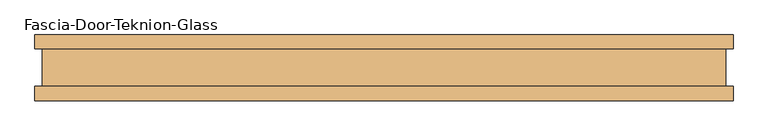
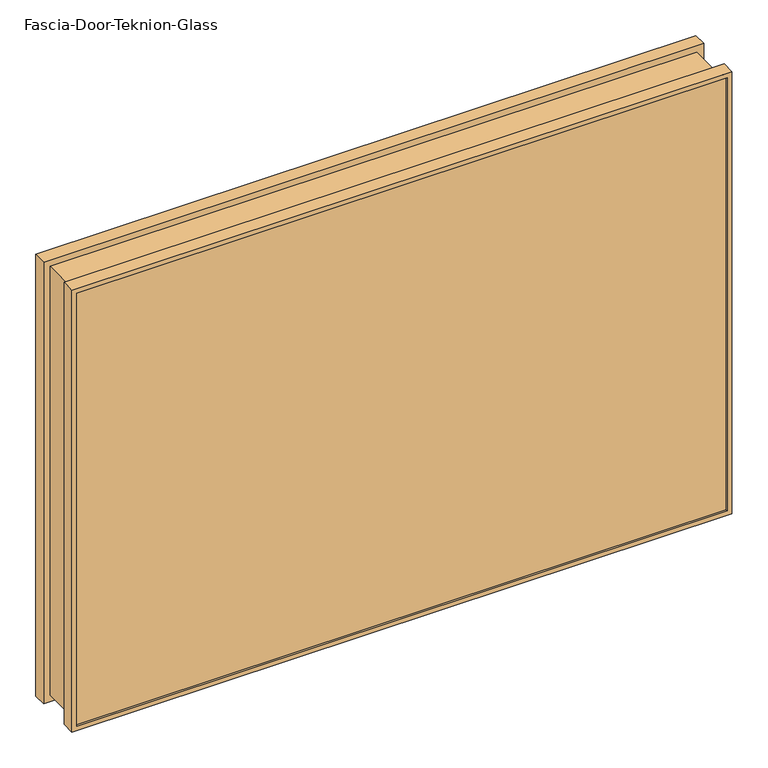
"""IFC4 building model written with IfcOpenShell, lengths in millimetres: door geometry, Fascia-Door-Teknion-Glass : FPGD."""

from ifc_helpers import new_model, si_unit, frame, origin, place, context, project, spatial, polyline, ellipse_curve, outline, extrude, source, transform, mapped, element, save
from ifc_brep_helpers import plane_surface, cylinder_surface, advanced_brep


def fascia_door_teknion_glass_046dfec6(model_context):
    return source(origin(), model_context, "Body", "SolidModel", [
        advanced_brep(
        [(530.2300781, -50.0558594, 753.745), (530.2300781, -50.0558594, 3.175), (530.2300781, -28.2698798, 3.175), (530.2300781, -28.2698798, 753.745), (522.7948703, -47.1322551, 746.3097922), (522.7948703, -47.1322551, 10.6102078), (522.7948703, -50.0558594, 10.6102078), (522.7948703, -50.0558594, 746.3097922), (528.0775518, -41.1791301, 751.5924737), (528.0775518, -41.1791301, 5.3275263), (528.0775518, -47.1322551, 5.3275263), (528.0775518, -47.1322551, 751.5924737), (522.2726626, 40.9277344, 745.7875845), (522.2726626, 40.9277344, 11.1324155), (522.2726626, -41.1791301, 11.1324155), (522.2726626, -41.1791301, 745.7875845), (528.0775518, 46.8808594, 751.5924737), (528.0775518, 46.8808594, 5.3275263), (528.0775518, 40.9277344, 5.3275263), (528.0775518, 40.9277344, 751.5924737), (522.7948703, 50.0558594, 746.3097922), (522.7948703, 50.0558594, 10.6102078), (522.7948703, 46.8808594, 10.6102078), (522.7948703, 46.8808594, 746.3097922), (530.2300781, 28.8801202, 753.745), (530.2300781, 28.8801202, 3.175), (530.2300781, 50.0558594, 3.175), (530.2300781, 50.0558594, 753.745), (519.3782367, -28.2698798, 742.8931586), (519.3782367, -28.2698798, 14.0268414), (519.3782367, 28.8801202, 14.0268414), (519.3782367, 28.8801202, 742.8931586), (-530.2300781, -50.0558594, 3.175), (-530.2300781, -28.2698798, 3.175), (-522.7948703, -47.1322551, 10.6102078), (-522.7948703, -50.0558594, 10.6102078), (-528.0775518, -41.1791301, 5.3275263), (-528.0775518, -47.1322551, 5.3275263), (-522.2726626, 40.9277344, 11.1324155), (-522.2726626, -41.1791301, 11.1324155), (-528.0775518, 46.8808594, 5.3275263), (-528.0775518, 40.9277344, 5.3275263), (-522.7948703, 50.0558594, 10.6102078), (-522.7948703, 46.8808594, 10.6102078), (-530.2300781, 28.8801202, 3.175), (-530.2300781, 50.0558594, 3.175), (-519.3782367, -28.2698798, 14.0268414), (-519.3782367, 28.8801202, 14.0268414), (-530.2300781, -50.0558594, 753.745), (-530.2300781, -28.2698798, 753.745), (-522.7948703, -47.1322551, 746.3097922), (-522.7948703, -50.0558594, 746.3097922), (-528.0775518, -41.1791301, 751.5924737), (-528.0775518, -47.1322551, 751.5924737), (-522.2726626, 40.9277344, 745.7875845), (-522.2726626, -41.1791301, 745.7875845), (-528.0775518, 46.8808594, 751.5924737), (-528.0775518, 40.9277344, 751.5924737), (-522.7948703, 50.0558594, 746.3097922), (-522.7948703, 46.8808594, 746.3097922), (-530.2300781, 28.8801202, 753.745), (-530.2300781, 50.0558594, 753.745), (-519.3782367, -28.2698798, 742.8931586), (-519.3782367, 28.8801202, 742.8931586)],
        [
            (0, 1),
            (1, 2),
            (2, 3),
            (3, 0),
            (4, 5),
            (5, 6),
            (6, 7),
            (7, 4),
            (8, 9),
            (9, 10),
            (10, 11),
            (11, 8),
            (12, 13),
            (13, 14, ellipse_curve(frame((561.6585049, -0.1256979, -28.2534268), z_axis=(0.7071067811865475, 0.0, 0.7071067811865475), x_axis=(-0.7071067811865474, 0.0, 0.7071067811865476)), 80.4565581, 56.8913778)),
            (14, 15),
            (15, 12, ellipse_curve(frame((561.6585049, -0.1256979, 785.1734268), z_axis=(0.7071067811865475, 0.0, -0.7071067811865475), x_axis=(0.7071067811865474, 0.0, 0.7071067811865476)), 80.4565581, 56.8913778)),
            (16, 17),
            (17, 18),
            (18, 19),
            (19, 16),
            (20, 21),
            (21, 22),
            (22, 23),
            (23, 20),
            (24, 25),
            (25, 26),
            (26, 27),
            (27, 24),
            (28, 29),
            (29, 30),
            (30, 31),
            (31, 28),
            (1, 32),
            (32, 33),
            (33, 2),
            (5, 34),
            (34, 35),
            (35, 6),
            (9, 36),
            (36, 37),
            (37, 10),
            (13, 38),
            (38, 39, ellipse_curve(frame((-561.6585049, -0.1256979, -28.2534268), z_axis=(0.7071067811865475, 0.0, -0.7071067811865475), x_axis=(0.7071067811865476, 0.0, 0.7071067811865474)), 80.4565581, 56.8913778)),
            (39, 14),
            (17, 40),
            (40, 41),
            (41, 18),
            (21, 42),
            (42, 43),
            (43, 22),
            (25, 44),
            (44, 45),
            (45, 26),
            (29, 46),
            (46, 47),
            (47, 30),
            (32, 48),
            (48, 49),
            (49, 33),
            (34, 50),
            (50, 51),
            (51, 35),
            (36, 52),
            (52, 53),
            (53, 37),
            (38, 54),
            (54, 55, ellipse_curve(frame((-561.6585049, -0.1256979, 785.1734268), z_axis=(-0.7071067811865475, 0.0, -0.7071067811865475), x_axis=(0.7071067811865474, 0.0, -0.7071067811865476)), 80.4565581, 56.8913778)),
            (55, 39),
            (40, 56),
            (56, 57),
            (57, 41),
            (42, 58),
            (58, 59),
            (59, 43),
            (44, 60),
            (60, 61),
            (61, 45),
            (46, 62),
            (62, 63),
            (63, 47),
            (48, 0),
            (3, 49),
            (51, 7),
            (50, 4),
            (53, 11),
            (52, 8),
            (55, 15),
            (54, 12),
            (57, 19),
            (56, 16),
            (59, 23),
            (58, 20),
            (61, 27),
            (60, 24),
            (63, 31),
            (62, 28),
        ],
        [
            plane_surface(frame((530.2300781, -28.2698798, 753.745), z_axis=(1.0, 0.0, 0.0), x_axis=(0.0, 0.0, -1.0))),
            plane_surface(frame((522.7948703, -50.0558594, 746.3097922), z_axis=(-1.0, 0.0, 0.0), x_axis=(0.0, 0.0, -1.0))),
            plane_surface(frame((528.0775518, -47.1322551, 751.5924737), z_axis=(-1.0, 0.0, 0.0), x_axis=(0.0, 0.0, -1.0))),
            cylinder_surface(frame((561.6585049, -0.1256979, 753.745), z_axis=(0.0, 0.0, 1.0), x_axis=(1.0, 0.0, 0.0)), 56.8913778),
            plane_surface(frame((528.0775518, 40.9277344, 751.5924737), z_axis=(-1.0, 0.0, 0.0), x_axis=(0.0, 0.0, -1.0))),
            plane_surface(frame((522.7948703, 46.8808594, 746.3097922), z_axis=(-1.0, 0.0, 0.0), x_axis=(0.0, 0.0, -1.0))),
            plane_surface(frame((530.2300781, 50.0558594, 753.745), z_axis=(1.0, 0.0, 0.0), x_axis=(0.0, 0.0, -1.0))),
            plane_surface(frame((519.3782367, 28.8801202, 742.8931586), z_axis=(1.0, 0.0, 0.0), x_axis=(0.0, 0.0, -1.0))),
            plane_surface(frame((530.2300781, -28.2698798, 3.175), z_axis=(0.0, 0.0, -1.0), x_axis=(-1.0, 0.0, 0.0))),
            plane_surface(frame((522.7948703, -50.0558594, 10.6102078), z_axis=(0.0, 0.0, 1.0), x_axis=(-1.0, 0.0, 0.0))),
            plane_surface(frame((528.0775518, -47.1322551, 5.3275263), z_axis=(0.0, 0.0, 1.0), x_axis=(-1.0, 0.0, 0.0))),
            cylinder_surface(frame((530.2300781, -0.1256979, -28.2534268), z_axis=(1.0, 0.0, 0.0), x_axis=(0.0, 0.0, -1.0)), 56.8913778),
            plane_surface(frame((528.0775518, 40.9277344, 5.3275263), z_axis=(0.0, 0.0, 1.0), x_axis=(-1.0, 0.0, 0.0))),
            plane_surface(frame((522.7948703, 46.8808594, 10.6102078), z_axis=(0.0, 0.0, 1.0), x_axis=(-1.0, 0.0, 0.0))),
            plane_surface(frame((530.2300781, 50.0558594, 3.175), z_axis=(0.0, 0.0, -1.0), x_axis=(-1.0, 0.0, 0.0))),
            plane_surface(frame((519.3782367, 28.8801202, 14.0268414), z_axis=(0.0, 0.0, -1.0), x_axis=(-1.0, 0.0, 0.0))),
            plane_surface(frame((-530.2300781, -28.2698798, 3.175), z_axis=(-1.0, 0.0, 0.0), x_axis=(0.0, 0.0, 1.0))),
            plane_surface(frame((-522.7948703, -50.0558594, 10.6102078), z_axis=(1.0, 0.0, 0.0), x_axis=(0.0, 0.0, 1.0))),
            plane_surface(frame((-528.0775518, -47.1322551, 5.3275263), z_axis=(1.0, 0.0, 0.0), x_axis=(0.0, 0.0, 1.0))),
            cylinder_surface(frame((-561.6585049, -0.1256979, 3.175), z_axis=(0.0, 0.0, -1.0), x_axis=(-1.0, 0.0, 0.0)), 56.8913778),
            plane_surface(frame((-528.0775518, 40.9277344, 5.3275263), z_axis=(1.0, 0.0, 0.0), x_axis=(0.0, 0.0, 1.0))),
            plane_surface(frame((-522.7948703, 46.8808594, 10.6102078), z_axis=(1.0, 0.0, 0.0), x_axis=(0.0, 0.0, 1.0))),
            plane_surface(frame((-530.2300781, 50.0558594, 3.175), z_axis=(-1.0, 0.0, 0.0), x_axis=(0.0, 0.0, 1.0))),
            plane_surface(frame((-519.3782367, 28.8801202, 14.0268414), z_axis=(-1.0, 0.0, 0.0), x_axis=(0.0, 0.0, 1.0))),
            plane_surface(frame((-530.2300781, -28.2698798, 753.745), z_axis=(0.0, 0.0, 1.0), x_axis=(1.0, 0.0, 0.0))),
            plane_surface(frame((-530.2300781, -50.0558594, 753.745), z_axis=(0.0, -1.0, 0.0), x_axis=(1.0, 0.0, 0.0))),
            plane_surface(frame((-522.7948703, -50.0558594, 746.3097922), z_axis=(0.0, 0.0, -1.0), x_axis=(1.0, 0.0, 0.0))),
            plane_surface(frame((-522.7948703, -47.1322551, 746.3097922), z_axis=(0.0, 1.0, 0.0), x_axis=(1.0, 0.0, 0.0))),
            plane_surface(frame((-528.0775518, -47.1322551, 751.5924737), z_axis=(0.0, 0.0, -1.0), x_axis=(1.0, 0.0, 0.0))),
            plane_surface(frame((-528.0775518, -41.1791301, 751.5924737), z_axis=(0.0, -1.0, 0.0), x_axis=(1.0, 0.0, 0.0))),
            cylinder_surface(frame((-530.2300781, -0.1256979, 785.1734268), z_axis=(-1.0, 0.0, 0.0), x_axis=(0.0, 0.0, 1.0)), 56.8913778),
            plane_surface(frame((-522.2726626, 40.9277344, 745.7875845), z_axis=(0.0, 1.0, 0.0), x_axis=(1.0, 0.0, 0.0))),
            plane_surface(frame((-528.0775518, 40.9277344, 751.5924737), z_axis=(0.0, 0.0, -1.0), x_axis=(1.0, 0.0, 0.0))),
            plane_surface(frame((-528.0775518, 46.8808594, 751.5924737), z_axis=(0.0, -1.0, 0.0), x_axis=(1.0, 0.0, 0.0))),
            plane_surface(frame((-522.7948703, 46.8808594, 746.3097922), z_axis=(0.0, 0.0, -1.0), x_axis=(1.0, 0.0, 0.0))),
            plane_surface(frame((-522.7948703, 50.0558594, 746.3097922), z_axis=(0.0, 1.0, 0.0), x_axis=(1.0, 0.0, 0.0))),
            plane_surface(frame((-530.2300781, 50.0558594, 753.745), z_axis=(0.0, 0.0, 1.0), x_axis=(1.0, 0.0, 0.0))),
            plane_surface(frame((-530.2300781, 28.8801202, 753.745), z_axis=(0.0, -1.0, 0.0), x_axis=(1.0, 0.0, 0.0))),
            plane_surface(frame((-519.3782367, 28.8801202, 742.8931586), z_axis=(0.0, 0.0, 1.0), x_axis=(1.0, 0.0, 0.0))),
            plane_surface(frame((-519.3782367, -28.2698798, 742.8931586), z_axis=(0.0, 1.0, 0.0), x_axis=(1.0, 0.0, 0.0))),
        ],
        [
            (0, [[1, 2, 3, 4]]),
            (1, [[5, 6, 7, 8]]),
            (2, [[9, 10, 11, 12]]),
            (3, [[13, 14, 15, 16]]),
            (4, [[17, 18, 19, 20]]),
            (5, [[21, 22, 23, 24]]),
            (6, [[25, 26, 27, 28]]),
            (7, [[29, 30, 31, 32]]),
            (8, [[33, 34, 35, -2]]),
            (9, [[36, 37, 38, -6]]),
            (10, [[39, 40, 41, -10]]),
            (11, [[42, 43, 44, -14]]),
            (12, [[45, 46, 47, -18]]),
            (13, [[48, 49, 50, -22]]),
            (14, [[51, 52, 53, -26]]),
            (15, [[54, 55, 56, -30]]),
            (16, [[57, 58, 59, -34]]),
            (17, [[60, 61, 62, -37]]),
            (18, [[63, 64, 65, -40]]),
            (19, [[66, 67, 68, -43]]),
            (20, [[69, 70, 71, -46]]),
            (21, [[72, 73, 74, -49]]),
            (22, [[75, 76, 77, -52]]),
            (23, [[78, 79, 80, -55]]),
            (24, [[81, -4, 82, -58]]),
            (25, [[-1, -81, -57, -33], [-7, -38, -62, 83]]),
            (26, [[84, -8, -83, -61]]),
            (27, [[-11, -41, -65, 85], [-5, -84, -60, -36]]),
            (28, [[86, -12, -85, -64]]),
            (29, [[-9, -86, -63, -39], [-15, -44, -68, 87]]),
            (30, [[88, -16, -87, -67]]),
            (31, [[-19, -47, -71, 89], [-13, -88, -66, -42]]),
            (32, [[90, -20, -89, -70]]),
            (33, [[-17, -90, -69, -45], [-23, -50, -74, 91]]),
            (34, [[92, -24, -91, -73]]),
            (35, [[-27, -53, -77, 93], [-21, -92, -72, -48]]),
            (36, [[94, -28, -93, -76]]),
            (37, [[-25, -94, -75, -51], [-31, -56, -80, 95]]),
            (38, [[96, -32, -95, -79]]),
            (39, [[-3, -35, -59, -82], [-29, -96, -78, -54]]),
        ],
    ),
        extrude(outline(polyline([(528.0775518, 40.9277344), (-528.0775518, 40.9277344), (-528.0775518, 46.8808594), (528.0775518, 46.8808594), (528.0775518, 40.9277344)])), frame((0.0, 0.0, 5.3275263), z_axis=(0.0, 0.0, 1.0), x_axis=(1.0, 0.0, 0.0)), (0.0, 0.0, 1.0), 745.770928),
        extrude(outline(polyline([(528.0775518, -41.1791301), (528.0775518, -47.1322551), (-528.0775518, -47.1322551), (-528.0775518, -41.1791301), (528.0775518, -41.1791301)])), frame((0.0, 0.0, 5.3275263), z_axis=(0.0, 0.0, 1.0), x_axis=(1.0, 0.0, 0.0)), (0.0, 0.0, 1.0), 745.770928),
    ])


if __name__ == "__main__":
    model = new_model("IFC4")
    model_context = context("Model", 3, world=origin())
    ifc_project = project(units=[si_unit("LENGTHUNIT", "METRE", prefix="MILLI")], contexts=[model_context])
    site = spatial("IfcSite", under=ifc_project)
    building = spatial("IfcBuilding", under=site)
    placement = place(None, origin())
    fascia_door_teknion_glass_shape = fascia_door_teknion_glass_046dfec6(model_context)
    element("IfcDoor", 1, ObjectType="Fascia-Door-Teknion-Glass : FPGD", at=placement, inside=building, context=model_context, shape_type="MappedRepresentation", body=[
        mapped(fascia_door_teknion_glass_shape, transform((0.0, 0.0, 0.0), x_axis=(1.0, 0.0, 0.0), y_axis=(0.0, 1.0, 0.0), z_axis=(0.0, 0.0, 1.0))),
    ])
    save(model, "model.ifc")
